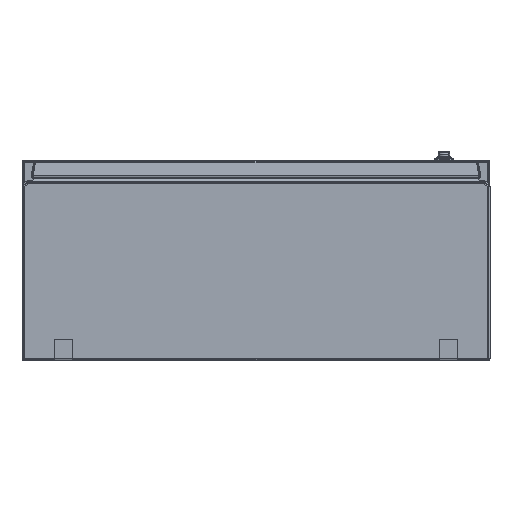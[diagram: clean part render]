
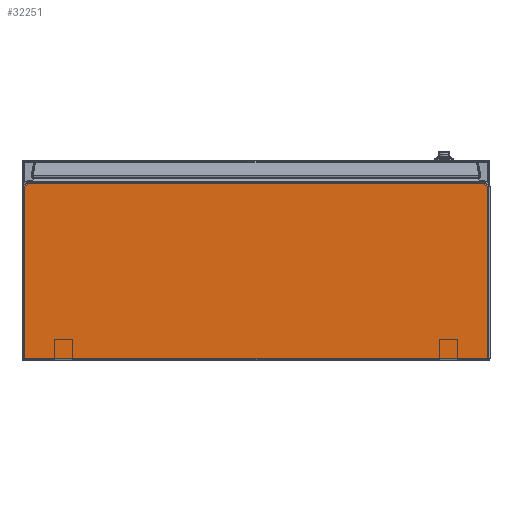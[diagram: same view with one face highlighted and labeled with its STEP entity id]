
A CAD part, front view. The second image highlights one B-rep face of the part: STEP entity #32251.
In plain terms, the highlighted planar face has unit normal (0, -1, 0).
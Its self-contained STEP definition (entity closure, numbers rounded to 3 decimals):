
#1133 = LINE ( 'NONE', #13026, #28781 ) ;
#4350 = LINE ( 'NONE', #16236, #24081 ) ;
#5595 = CARTESIAN_POINT ( 'NONE',  ( 350., -447.5, -300. ) ) ;
#6127 = EDGE_CURVE ( 'NONE', #14922, #12214, #22667, .T. ) ;
#6822 = EDGE_CURVE ( 'NONE', #14798, #18973, #13379, .T. ) ;
#7866 = DIRECTION ( 'NONE',  ( 0., 0., 1. ) ) ;
#8216 = ORIENTED_EDGE ( 'NONE', *, *, #34961, .T. ) ;
#10048 = VECTOR ( 'NONE', #23231, 1000. ) ;
#10124 = VECTOR ( 'NONE', #37126, 1000. ) ;
#10397 = CARTESIAN_POINT ( 'NONE',  ( -347., -447.5, -39.562 ) ) ;
#10779 = CARTESIAN_POINT ( 'NONE',  ( -347., -447.5, -39.562 ) ) ;
#11352 = CARTESIAN_POINT ( 'NONE',  ( 350., -447.5, -297. ) ) ;
#12214 = VERTEX_POINT ( 'NONE', #26887 ) ;
#13026 = CARTESIAN_POINT ( 'NONE',  ( 350., -447.5, -35. ) ) ;
#13269 = ORIENTED_EDGE ( 'NONE', *, *, #36450, .T. ) ;
#13379 = LINE ( 'NONE', #25252, #10124 ) ;
#14798 = VERTEX_POINT ( 'NONE', #10779 ) ;
#14922 = VERTEX_POINT ( 'NONE', #17804 ) ;
#16215 = CARTESIAN_POINT ( 'NONE',  ( 340.485, -447.5, -35. ) ) ;
#16236 = CARTESIAN_POINT ( 'NONE',  ( 343.995, -447.5, -37.457 ) ) ;
#17316 = ORIENTED_EDGE ( 'NONE', *, *, #32950, .T. ) ;
#17479 = DIRECTION ( 'NONE',  ( 0., -1., 0. ) ) ;
#17804 = CARTESIAN_POINT ( 'NONE',  ( 347., -447.5, -297. ) ) ;
#18973 = VERTEX_POINT ( 'NONE', #28802 ) ;
#20399 = FACE_OUTER_BOUND ( 'NONE', #20977, .T. ) ;
#20977 = EDGE_LOOP ( 'NONE', ( #28545, #17316, #13269, #29787, #33880, #8216 ) ) ;
#22284 = DIRECTION ( 'NONE',  ( -0.819, 0., -0.574 ) ) ;
#22667 = LINE ( 'NONE', #34524, #24383 ) ;
#23231 = DIRECTION ( 'NONE',  ( 1., 0., 0. ) ) ;
#24081 = VECTOR ( 'NONE', #28097, 1000. ) ;
#24383 = VECTOR ( 'NONE', #7866, 1000. ) ;
#24859 = VERTEX_POINT ( 'NONE', #16215 ) ;
#24890 = DIRECTION ( 'NONE',  ( -1., 0., 0. ) ) ;
#25252 = CARTESIAN_POINT ( 'NONE',  ( -347., -447.5, -300. ) ) ;
#26887 = CARTESIAN_POINT ( 'NONE',  ( 347., -447.5, -39.562 ) ) ;
#28097 = DIRECTION ( 'NONE',  ( -0.819, 0., 0.574 ) ) ;
#28545 = ORIENTED_EDGE ( 'NONE', *, *, #6127, .T. ) ;
#28781 = VECTOR ( 'NONE', #24890, 1000. ) ;
#28802 = CARTESIAN_POINT ( 'NONE',  ( -347., -447.5, -297. ) ) ;
#29003 = CARTESIAN_POINT ( 'NONE',  ( -340.485, -447.5, -35. ) ) ;
#29337 = DIRECTION ( 'NONE',  ( 1., 0., 0. ) ) ;
#29635 = AXIS2_PLACEMENT_3D ( 'NONE', #5595, #17479, #29337 ) ;
#29787 = ORIENTED_EDGE ( 'NONE', *, *, #30904, .T. ) ;
#30904 = EDGE_CURVE ( 'NONE', #36239, #14798, #37067, .T. ) ;
#32251 = ADVANCED_FACE ( 'NONE', ( #20399 ), #32259, .T. ) ;
#32259 = PLANE ( 'NONE',  #29635 ) ;
#32950 = EDGE_CURVE ( 'NONE', #12214, #24859, #4350, .T. ) ;
#33880 = ORIENTED_EDGE ( 'NONE', *, *, #6822, .T. ) ;
#34524 = CARTESIAN_POINT ( 'NONE',  ( 347., -447.5, -300. ) ) ;
#34961 = EDGE_CURVE ( 'NONE', #18973, #14922, #38022, .T. ) ;
#35786 = VECTOR ( 'NONE', #22284, 1000. ) ;
#36239 = VERTEX_POINT ( 'NONE', #29003 ) ;
#36450 = EDGE_CURVE ( 'NONE', #24859, #36239, #1133, .T. ) ;
#37067 = LINE ( 'NONE', #10397, #35786 ) ;
#37126 = DIRECTION ( 'NONE',  ( 0., 0., -1. ) ) ;
#38022 = LINE ( 'NONE', #11352, #10048 ) ;
